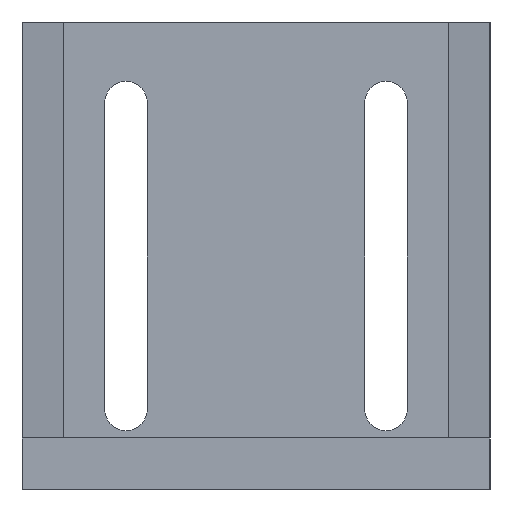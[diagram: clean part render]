
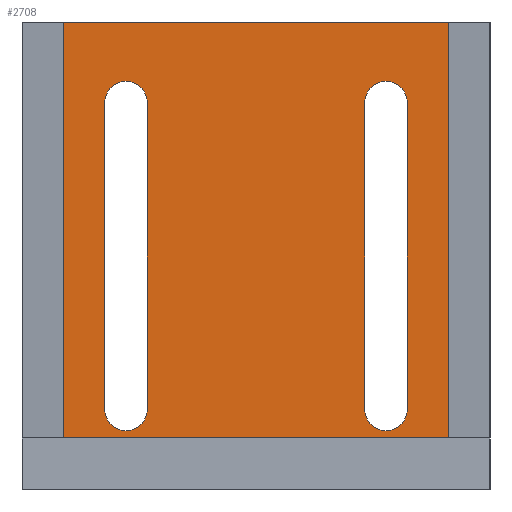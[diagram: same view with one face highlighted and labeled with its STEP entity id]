
A CAD part, left-side view. The second image highlights one B-rep face of the part: STEP entity #2708.
In plain terms, the highlighted planar face has unit normal (-1, 0, 0) as drawn and (0, 0, 1) by its records, which use the part's own axes.
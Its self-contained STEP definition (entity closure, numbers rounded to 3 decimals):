
#38 = VERTEX_POINT ( 'NONE', #2408 ) ;
#41 = DIRECTION ( 'NONE',  ( 0., 0., 1. ) ) ;
#67 = CIRCLE ( 'NONE', #1702, 4.086 ) ;
#69 = LINE ( 'NONE', #797, #2371 ) ;
#115 = DIRECTION ( 'NONE',  ( 1., 0., 0. ) ) ;
#129 = VERTEX_POINT ( 'NONE', #1925 ) ;
#207 = EDGE_LOOP ( 'NONE', ( #1301, #999, #2272, #2631 ) ) ;
#208 = CARTESIAN_POINT ( 'NONE',  ( 25., 24.5, 10. ) ) ;
#276 = VERTEX_POINT ( 'NONE', #2639 ) ;
#279 = DIRECTION ( 'NONE',  ( -1., 0., 0. ) ) ;
#387 = EDGE_CURVE ( 'NONE', #533, #1991, #69, .T. ) ;
#394 = VECTOR ( 'NONE', #2674, 1000. ) ;
#408 = PLANE ( 'NONE',  #501 ) ;
#466 = EDGE_CURVE ( 'NONE', #129, #2064, #1935, .T. ) ;
#501 = AXIS2_PLACEMENT_3D ( 'NONE', #2352, #1847, #1364 ) ;
#513 = AXIS2_PLACEMENT_3D ( 'NONE', #208, #2458, #279 ) ;
#533 = VERTEX_POINT ( 'NONE', #2263 ) ;
#547 = DIRECTION ( 'NONE',  ( 0., -1., 0. ) ) ;
#579 = CARTESIAN_POINT ( 'NONE',  ( -20.914, -34.5, 10. ) ) ;
#618 = EDGE_CURVE ( 'NONE', #2138, #2545, #67, .T. ) ;
#635 = ORIENTED_EDGE ( 'NONE', *, *, #2308, .F. ) ;
#685 = VERTEX_POINT ( 'NONE', #2584 ) ;
#710 = EDGE_CURVE ( 'NONE', #2699, #2138, #784, .T. ) ;
#713 = FACE_BOUND ( 'NONE', #1037, .T. ) ;
#723 = ORIENTED_EDGE ( 'NONE', *, *, #387, .F. ) ;
#749 = LINE ( 'NONE', #3081, #1821 ) ;
#776 = DIRECTION ( 'NONE',  ( 0., -1., 0. ) ) ;
#781 = CARTESIAN_POINT ( 'NONE',  ( -25., 24.5, 10. ) ) ;
#784 = LINE ( 'NONE', #2324, #1209 ) ;
#797 = CARTESIAN_POINT ( 'NONE',  ( 20.914, -34.5, 10. ) ) ;
#852 = EDGE_CURVE ( 'NONE', #2545, #924, #749, .T. ) ;
#899 = CARTESIAN_POINT ( 'NONE',  ( -25., -34.5, 10. ) ) ;
#924 = VERTEX_POINT ( 'NONE', #1495 ) ;
#968 = CIRCLE ( 'NONE', #2340, 4.086 ) ;
#999 = ORIENTED_EDGE ( 'NONE', *, *, #466, .T. ) ;
#1037 = EDGE_LOOP ( 'NONE', ( #2363, #1927, #1442, #635 ) ) ;
#1094 = LINE ( 'NONE', #1340, #1450 ) ;
#1175 = FACE_OUTER_BOUND ( 'NONE', #207, .T. ) ;
#1204 = CARTESIAN_POINT ( 'NONE',  ( -29.086, -34.5, 10. ) ) ;
#1209 = VECTOR ( 'NONE', #1609, 1000. ) ;
#1291 = CIRCLE ( 'NONE', #513, 4.086 ) ;
#1293 = CARTESIAN_POINT ( 'NONE',  ( -45., -40., 10. ) ) ;
#1301 = ORIENTED_EDGE ( 'NONE', *, *, #2781, .T. ) ;
#1322 = EDGE_LOOP ( 'NONE', ( #1648, #1705, #723, #2841 ) ) ;
#1340 = CARTESIAN_POINT ( 'NONE',  ( -45., -40., 10. ) ) ;
#1364 = DIRECTION ( 'NONE',  ( -1., 0., 0. ) ) ;
#1416 = DIRECTION ( 'NONE',  ( 0., 0., 1. ) ) ;
#1442 = ORIENTED_EDGE ( 'NONE', *, *, #710, .F. ) ;
#1450 = VECTOR ( 'NONE', #115, 1000. ) ;
#1469 = AXIS2_PLACEMENT_3D ( 'NONE', #781, #41, #2926 ) ;
#1495 = CARTESIAN_POINT ( 'NONE',  ( -20.914, 24.5, 10. ) ) ;
#1531 = VECTOR ( 'NONE', #547, 1000. ) ;
#1545 = CARTESIAN_POINT ( 'NONE',  ( -45., 40., 10. ) ) ;
#1599 = EDGE_CURVE ( 'NONE', #685, #533, #1291, .T. ) ;
#1609 = DIRECTION ( 'NONE',  ( 0., -1., 0. ) ) ;
#1647 = CARTESIAN_POINT ( 'NONE',  ( -29.086, 24.5, 10. ) ) ;
#1648 = ORIENTED_EDGE ( 'NONE', *, *, #3119, .F. ) ;
#1702 = AXIS2_PLACEMENT_3D ( 'NONE', #899, #1861, #2779 ) ;
#1705 = ORIENTED_EDGE ( 'NONE', *, *, #1984, .F. ) ;
#1821 = VECTOR ( 'NONE', #2622, 1000. ) ;
#1831 = CARTESIAN_POINT ( 'NONE',  ( 29.086, -34.5, 10. ) ) ;
#1847 = DIRECTION ( 'NONE',  ( 0., 0., -1. ) ) ;
#1861 = DIRECTION ( 'NONE',  ( 0., 0., 1. ) ) ;
#1920 = CARTESIAN_POINT ( 'NONE',  ( 29.086, -34.5, 10. ) ) ;
#1925 = CARTESIAN_POINT ( 'NONE',  ( 45., 40., 10. ) ) ;
#1927 = ORIENTED_EDGE ( 'NONE', *, *, #618, .F. ) ;
#1935 = LINE ( 'NONE', #1545, #394 ) ;
#1969 = FACE_BOUND ( 'NONE', #1322, .T. ) ;
#1971 = VECTOR ( 'NONE', #2621, 1000. ) ;
#1984 = EDGE_CURVE ( 'NONE', #1991, #2539, #968, .T. ) ;
#1991 = VERTEX_POINT ( 'NONE', #2553 ) ;
#2064 = VERTEX_POINT ( 'NONE', #2598 ) ;
#2138 = VERTEX_POINT ( 'NONE', #1204 ) ;
#2263 = CARTESIAN_POINT ( 'NONE',  ( 20.914, 24.5, 10. ) ) ;
#2272 = ORIENTED_EDGE ( 'NONE', *, *, #2359, .T. ) ;
#2308 = EDGE_CURVE ( 'NONE', #924, #2699, #3012, .T. ) ;
#2324 = CARTESIAN_POINT ( 'NONE',  ( -29.086, -34.5, 10. ) ) ;
#2340 = AXIS2_PLACEMENT_3D ( 'NONE', #2832, #1416, #2848 ) ;
#2352 = CARTESIAN_POINT ( 'NONE',  ( 0., 0., 10. ) ) ;
#2359 = EDGE_CURVE ( 'NONE', #2064, #276, #2853, .T. ) ;
#2363 = ORIENTED_EDGE ( 'NONE', *, *, #852, .F. ) ;
#2371 = VECTOR ( 'NONE', #776, 1000. ) ;
#2408 = CARTESIAN_POINT ( 'NONE',  ( 45., -40., 10. ) ) ;
#2458 = DIRECTION ( 'NONE',  ( 0., 0., 1. ) ) ;
#2499 = EDGE_CURVE ( 'NONE', #276, #38, #1094, .T. ) ;
#2539 = VERTEX_POINT ( 'NONE', #1831 ) ;
#2545 = VERTEX_POINT ( 'NONE', #579 ) ;
#2553 = CARTESIAN_POINT ( 'NONE',  ( 20.914, -34.5, 10. ) ) ;
#2584 = CARTESIAN_POINT ( 'NONE',  ( 29.086, 24.5, 10. ) ) ;
#2598 = CARTESIAN_POINT ( 'NONE',  ( -45., 40., 10. ) ) ;
#2621 = DIRECTION ( 'NONE',  ( 0., 1., 0. ) ) ;
#2622 = DIRECTION ( 'NONE',  ( 0., 1., 0. ) ) ;
#2631 = ORIENTED_EDGE ( 'NONE', *, *, #2499, .T. ) ;
#2639 = CARTESIAN_POINT ( 'NONE',  ( -45., -40., 10. ) ) ;
#2673 = DIRECTION ( 'NONE',  ( 0., 1., 0. ) ) ;
#2674 = DIRECTION ( 'NONE',  ( -1., 0., 0. ) ) ;
#2695 = CARTESIAN_POINT ( 'NONE',  ( 45., -40., 10. ) ) ;
#2699 = VERTEX_POINT ( 'NONE', #1647 ) ;
#2708 = ADVANCED_FACE ( 'NONE', ( #1969, #713, #1175 ), #408, .F. ) ;
#2779 = DIRECTION ( 'NONE',  ( 1., 0., 0. ) ) ;
#2781 = EDGE_CURVE ( 'NONE', #38, #129, #3049, .T. ) ;
#2832 = CARTESIAN_POINT ( 'NONE',  ( 25., -34.5, 10. ) ) ;
#2841 = ORIENTED_EDGE ( 'NONE', *, *, #1599, .F. ) ;
#2848 = DIRECTION ( 'NONE',  ( -1., 0., 0. ) ) ;
#2853 = LINE ( 'NONE', #1293, #1531 ) ;
#2926 = DIRECTION ( 'NONE',  ( 1., 0., 0. ) ) ;
#3008 = VECTOR ( 'NONE', #2673, 1000. ) ;
#3012 = CIRCLE ( 'NONE', #1469, 4.086 ) ;
#3014 = LINE ( 'NONE', #1920, #1971 ) ;
#3049 = LINE ( 'NONE', #2695, #3008 ) ;
#3081 = CARTESIAN_POINT ( 'NONE',  ( -20.914, -34.5, 10. ) ) ;
#3119 = EDGE_CURVE ( 'NONE', #2539, #685, #3014, .T. ) ;
